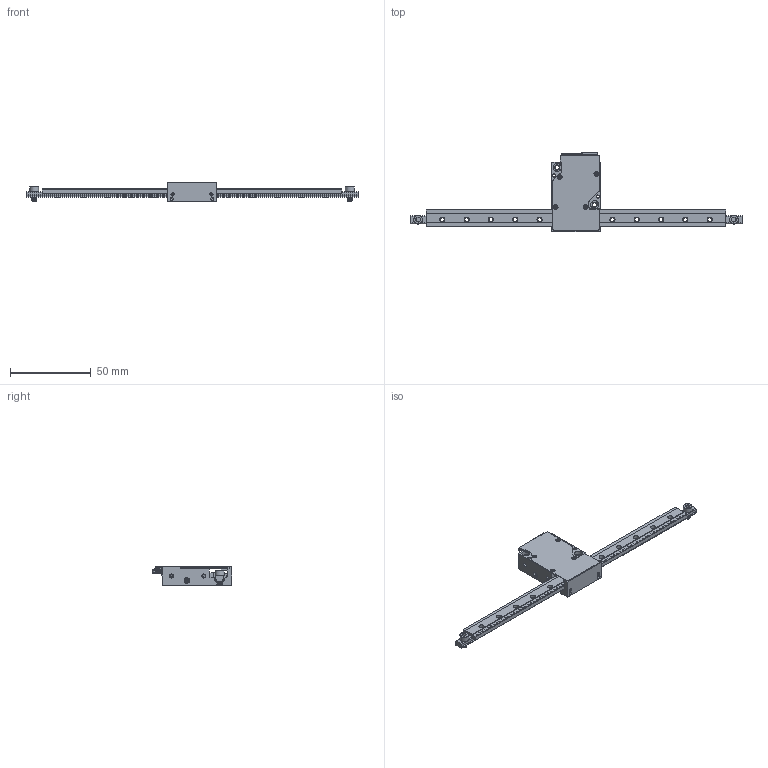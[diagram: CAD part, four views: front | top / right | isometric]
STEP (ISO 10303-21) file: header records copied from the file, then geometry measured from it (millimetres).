
FILE_DESCRIPTION(/* description */ (''),/* implementation_level */ '2;1');
FILE_NAME(/* name */ 'XLA_10_205_assy_A2.stp',/* time_stamp */ '2024-02-28T11:31:40+01:00',/* author */ (''),/* organization */ (''),/* preprocessor_version */ 'ST-DEVELOPER v16',/* originating_system */ 'SIEMENS PLM Software NX 10.0',/* authorisation */ '');
FILE_SCHEMA (('AUTOMOTIVE_DESIGN { 1 0 10303 214 3 1 1 1 }'));
Length unit declared in the file: millimetre
Products named in the file (18): encoder; 522070460_stp; 527451297_Gold; linear_encoder_185; magnet_limit; Bout_M3_L6; ceramic_ruler_W3_T2_L185; XLA_10_tractielat_FR4_185_C; rail_205; PACK-SMIB1.6-3_stp; XLA_10_cover_A; CSPPN1P-ST3W-M2-6_214_step; CBSTSE2.6-3_stp; carriage; XLA_10_body_A2; XLA_10_top_PCB_V2; XLA_10_tractielat_assy_205_1C; XLA_10_205_assy_A2
Assembly tree (24 placements, depth 3):
  XLA_10_205_assy_A2
    XLA_10_body_A2
    carriage
    XLA_10_tractielat_assy_205_1C
      rail_205
      XLA_10_tractielat_FR4_185_C
      ceramic_ruler_W3_T2_L185
      Bout_M3_L6  x2
      magnet_limit  x2
      linear_encoder_185
    CBSTSE2.6-3_stp  x2
    CSPPN1P-ST3W-M2-6_214_step  x2
    XLA_10_cover_A
    XLA_10_top_PCB_V2
      527451297_Gold
      522070460_stp
      encoder
    PACK-SMIB1.6-3_stp  x4
Bounding box: 205 x 49.1 x 11.5 mm (x, y, z)
Volume: 19410.9 mm3; surface area: 24846.3 mm2
Topology: 33 solids, 33 shells, 1722 faces, 4821 edges, 3181 vertices
Faces by surface type: plane 1151, cylinder 429, cone 99, torus 32, bspline 10, sphere 1
Full cylindrical faces by diameter (mm): 0.7 x2, 1 x74, 1.25 x4, 1.6 x8, 1.8 x4, 2 x4, 2.05 x2, 2.113 x2, 2.4 x5, 2.459 x14, 2.6 x4, 2.8 x4, 3.2 x12, 3.4 x1, 3.6 x2, 4 x1, 5 x4, 5.5 x2, 6 x2, 6.4 x2, 7 x1
Entity records: 52828 total; most frequent: CARTESIAN_POINT 12328, ORIENTED_EDGE 8036, DIRECTION 7897, EDGE_CURVE 4018, LINE 3135, VECTOR 3135, VERTEX_POINT 2778, AXIS2_PLACEMENT_3D 2381
